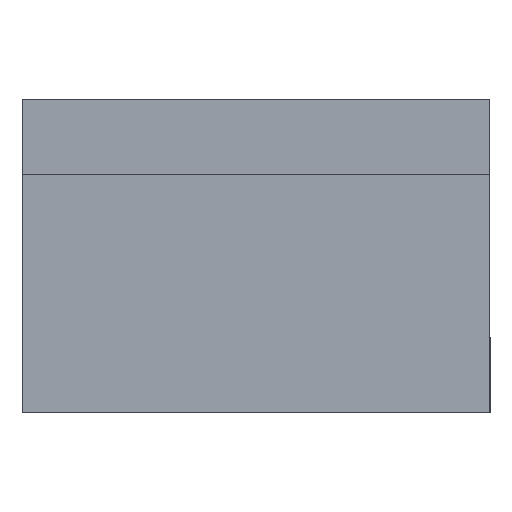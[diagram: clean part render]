
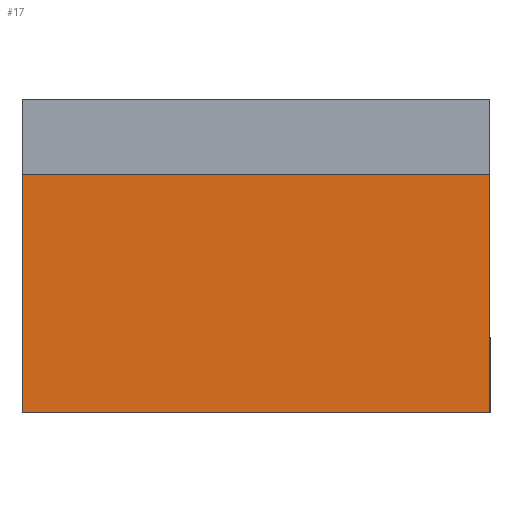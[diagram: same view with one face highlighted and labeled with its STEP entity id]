
A CAD part, left-side view. The second image highlights one B-rep face of the part: STEP entity #17.
In plain terms, the highlighted planar face has unit normal (-1, 0, 0).
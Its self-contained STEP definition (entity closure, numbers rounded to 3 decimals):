
#17 = ADVANCED_FACE('',(#18),#32,.F.);
#18 = FACE_BOUND('',#19,.F.);
#19 = EDGE_LOOP('',(#20,#55,#83,#111));
#20 = ORIENTED_EDGE('',*,*,#21,.F.);
#21 = EDGE_CURVE('',#22,#24,#26,.T.);
#22 = VERTEX_POINT('',#23);
#23 = CARTESIAN_POINT('',(0.,-18.68,0.));
#24 = VERTEX_POINT('',#25);
#25 = CARTESIAN_POINT('',(0.,-18.68,19.));
#26 = SURFACE_CURVE('',#27,(#31,#43),.PCURVE_S1.);
#27 = LINE('',#28,#29);
#28 = CARTESIAN_POINT('',(0.,-18.68,0.));
#29 = VECTOR('',#30,1.);
#30 = DIRECTION('',(0.,0.,1.));
#31 = PCURVE('',#32,#37);
#32 = PLANE('',#33);
#33 = AXIS2_PLACEMENT_3D('',#34,#35,#36);
#34 = CARTESIAN_POINT('',(0.,-18.68,0.));
#35 = DIRECTION('',(1.,0.,0.));
#36 = DIRECTION('',(0.,0.,1.));
#37 = DEFINITIONAL_REPRESENTATION('',(#38),#42);
#38 = LINE('',#39,#40);
#39 = CARTESIAN_POINT('',(0.,0.));
#40 = VECTOR('',#41,1.);
#41 = DIRECTION('',(1.,0.));
#42 = ( GEOMETRIC_REPRESENTATION_CONTEXT(2) 
PARAMETRIC_REPRESENTATION_CONTEXT() REPRESENTATION_CONTEXT('2D SPACE',''
  ) );
#43 = PCURVE('',#44,#49);
#44 = PLANE('',#45);
#45 = AXIS2_PLACEMENT_3D('',#46,#47,#48);
#46 = CARTESIAN_POINT('',(0.,-18.68,0.));
#47 = DIRECTION('',(0.,1.,0.));
#48 = DIRECTION('',(0.,0.,1.));
#49 = DEFINITIONAL_REPRESENTATION('',(#50),#54);
#50 = LINE('',#51,#52);
#51 = CARTESIAN_POINT('',(0.,0.));
#52 = VECTOR('',#53,1.);
#53 = DIRECTION('',(1.,0.));
#54 = ( GEOMETRIC_REPRESENTATION_CONTEXT(2) 
PARAMETRIC_REPRESENTATION_CONTEXT() REPRESENTATION_CONTEXT('2D SPACE',''
  ) );
#55 = ORIENTED_EDGE('',*,*,#56,.T.);
#56 = EDGE_CURVE('',#22,#57,#59,.T.);
#57 = VERTEX_POINT('',#58);
#58 = CARTESIAN_POINT('',(0.,18.68,0.));
#59 = SURFACE_CURVE('',#60,(#64,#71),.PCURVE_S1.);
#60 = LINE('',#61,#62);
#61 = CARTESIAN_POINT('',(0.,-18.68,0.));
#62 = VECTOR('',#63,1.);
#63 = DIRECTION('',(0.,1.,0.));
#64 = PCURVE('',#32,#65);
#65 = DEFINITIONAL_REPRESENTATION('',(#66),#70);
#66 = LINE('',#67,#68);
#67 = CARTESIAN_POINT('',(0.,0.));
#68 = VECTOR('',#69,1.);
#69 = DIRECTION('',(0.,-1.));
#70 = ( GEOMETRIC_REPRESENTATION_CONTEXT(2) 
PARAMETRIC_REPRESENTATION_CONTEXT() REPRESENTATION_CONTEXT('2D SPACE',''
  ) );
#71 = PCURVE('',#72,#77);
#72 = PLANE('',#73);
#73 = AXIS2_PLACEMENT_3D('',#74,#75,#76);
#74 = CARTESIAN_POINT('',(0.,-18.68,0.));
#75 = DIRECTION('',(0.,0.,1.));
#76 = DIRECTION('',(1.,0.,0.));
#77 = DEFINITIONAL_REPRESENTATION('',(#78),#82);
#78 = LINE('',#79,#80);
#79 = CARTESIAN_POINT('',(0.,0.));
#80 = VECTOR('',#81,1.);
#81 = DIRECTION('',(0.,1.));
#82 = ( GEOMETRIC_REPRESENTATION_CONTEXT(2) 
PARAMETRIC_REPRESENTATION_CONTEXT() REPRESENTATION_CONTEXT('2D SPACE',''
  ) );
#83 = ORIENTED_EDGE('',*,*,#84,.F.);
#84 = EDGE_CURVE('',#85,#57,#87,.T.);
#85 = VERTEX_POINT('',#86);
#86 = CARTESIAN_POINT('',(0.,18.68,19.));
#87 = SURFACE_CURVE('',#88,(#92,#99),.PCURVE_S1.);
#88 = LINE('',#89,#90);
#89 = CARTESIAN_POINT('',(0.,18.68,25.));
#90 = VECTOR('',#91,1.);
#91 = DIRECTION('',(0.,0.,-1.));
#92 = PCURVE('',#32,#93);
#93 = DEFINITIONAL_REPRESENTATION('',(#94),#98);
#94 = LINE('',#95,#96);
#95 = CARTESIAN_POINT('',(25.,-37.36));
#96 = VECTOR('',#97,1.);
#97 = DIRECTION('',(-1.,0.));
#98 = ( GEOMETRIC_REPRESENTATION_CONTEXT(2) 
PARAMETRIC_REPRESENTATION_CONTEXT() REPRESENTATION_CONTEXT('2D SPACE',''
  ) );
#99 = PCURVE('',#100,#105);
#100 = PLANE('',#101);
#101 = AXIS2_PLACEMENT_3D('',#102,#103,#104);
#102 = CARTESIAN_POINT('',(0.,18.68,0.));
#103 = DIRECTION('',(0.,1.,0.));
#104 = DIRECTION('',(0.,0.,1.));
#105 = DEFINITIONAL_REPRESENTATION('',(#106),#110);
#106 = LINE('',#107,#108);
#107 = CARTESIAN_POINT('',(25.,0.));
#108 = VECTOR('',#109,1.);
#109 = DIRECTION('',(-1.,0.));
#110 = ( GEOMETRIC_REPRESENTATION_CONTEXT(2) 
PARAMETRIC_REPRESENTATION_CONTEXT() REPRESENTATION_CONTEXT('2D SPACE',''
  ) );
#111 = ORIENTED_EDGE('',*,*,#112,.T.);
#112 = EDGE_CURVE('',#85,#24,#113,.T.);
#113 = SURFACE_CURVE('',#114,(#118,#124),.PCURVE_S1.);
#114 = LINE('',#115,#116);
#115 = CARTESIAN_POINT('',(0.,-18.68,19.));
#116 = VECTOR('',#117,1.);
#117 = DIRECTION('',(0.,-1.,0.));
#118 = PCURVE('',#32,#119);
#119 = DEFINITIONAL_REPRESENTATION('',(#120),#123);
#120 = B_SPLINE_CURVE_WITH_KNOTS('',1,(#121,#122),.UNSPECIFIED.,.F.,.F.,
  (2,2),(-37.36,0.),.PIECEWISE_BEZIER_KNOTS.);
#121 = CARTESIAN_POINT('',(19.,-37.36));
#122 = CARTESIAN_POINT('',(19.,0.));
#123 = ( GEOMETRIC_REPRESENTATION_CONTEXT(2) 
PARAMETRIC_REPRESENTATION_CONTEXT() REPRESENTATION_CONTEXT('2D SPACE',''
  ) );
#124 = PCURVE('',#125,#130);
#125 = PLANE('',#126);
#126 = AXIS2_PLACEMENT_3D('',#127,#128,#129);
#127 = CARTESIAN_POINT('',(-31.3,-18.68,19.));
#128 = DIRECTION('',(0.,0.,1.));
#129 = DIRECTION('',(1.,0.,0.));
#130 = DEFINITIONAL_REPRESENTATION('',(#131),#134);
#131 = B_SPLINE_CURVE_WITH_KNOTS('',1,(#132,#133),.UNSPECIFIED.,.F.,.F.,
  (2,2),(-37.36,0.),.PIECEWISE_BEZIER_KNOTS.);
#132 = CARTESIAN_POINT('',(31.3,37.36));
#133 = CARTESIAN_POINT('',(31.3,0.));
#134 = ( GEOMETRIC_REPRESENTATION_CONTEXT(2) 
PARAMETRIC_REPRESENTATION_CONTEXT() REPRESENTATION_CONTEXT('2D SPACE',''
  ) );
